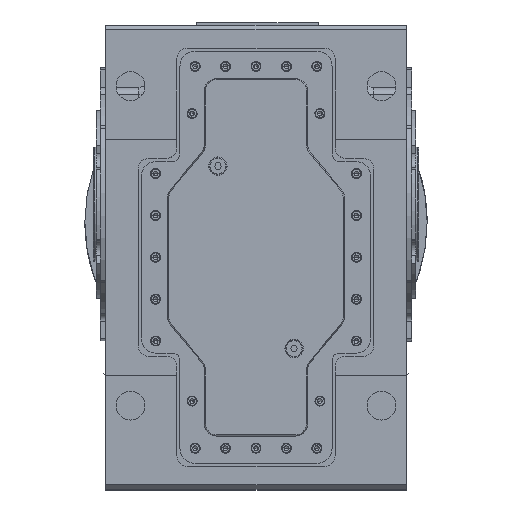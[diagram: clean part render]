
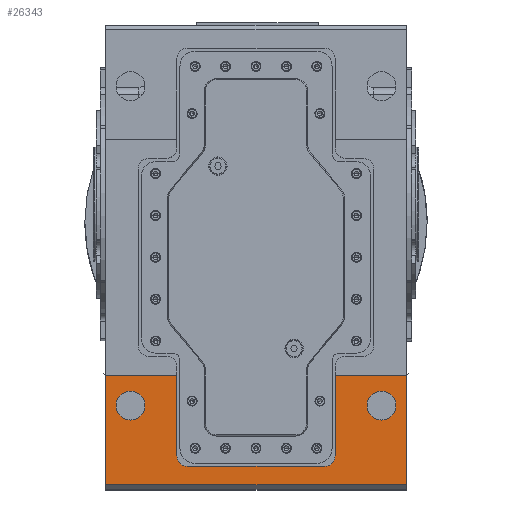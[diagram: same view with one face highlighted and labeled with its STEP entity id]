
A CAD part, top view. The second image highlights one B-rep face of the part: STEP entity #26343.
In plain terms, the highlighted planar face has unit normal (0, 0, 1).
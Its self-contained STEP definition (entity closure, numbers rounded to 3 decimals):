
#9358 = CIRCLE ( 'NONE', #72606, 19. ) ;
#9895 = CIRCLE ( 'NONE', #72667, 19. ) ;
#12580 = CARTESIAN_POINT ( 'NONE',  ( -104., -202.5, 687. ) ) ;
#12616 = CARTESIAN_POINT ( 'NONE',  ( -104., -308.5, 687. ) ) ;
#12620 = CARTESIAN_POINT ( 'NONE',  ( 104., -308.5, 687. ) ) ;
#12658 = CARTESIAN_POINT ( 'NONE',  ( -90., -322.5, 687. ) ) ;
#12751 = CARTESIAN_POINT ( 'NONE',  ( 104., -202.5, 687. ) ) ;
#12781 = CARTESIAN_POINT ( 'NONE',  ( 90., -322.5, 687. ) ) ;
#15340 = CARTESIAN_POINT ( 'NONE',  ( 146., -242.5, 687. ) ) ;
#15366 = CARTESIAN_POINT ( 'NONE',  ( 184., -242.5, 687. ) ) ;
#15993 = CARTESIAN_POINT ( 'NONE',  ( -197.5, -346.5, 687. ) ) ;
#16090 = CARTESIAN_POINT ( 'NONE',  ( 197.5, -346.5, 687. ) ) ;
#16177 = CARTESIAN_POINT ( 'NONE',  ( 197.5, -202.5, 687. ) ) ;
#18777 = VERTEX_POINT ( 'NONE', #12580 ) ;
#18799 = VERTEX_POINT ( 'NONE', #12620 ) ;
#18801 = VERTEX_POINT ( 'NONE', #12658 ) ;
#18827 = VERTEX_POINT ( 'NONE', #12616 ) ;
#18901 = VERTEX_POINT ( 'NONE', #12751 ) ;
#18904 = VERTEX_POINT ( 'NONE', #12781 ) ;
#20660 = FACE_BOUND ( 'NONE', #69038, .T. ) ;
#20670 = FACE_OUTER_BOUND ( 'NONE', #69008, .T. ) ;
#20729 = FACE_BOUND ( 'NONE', #69110, .T. ) ;
#26343 = ADVANCED_FACE ( 'NONE', ( #20670, #20729, #20660 ), #36157, .T. ) ;
#29108 = EDGE_CURVE ( 'NONE', #58003, #58020, #9358, .T. ) ;
#29371 = EDGE_CURVE ( 'NONE', #78285, #78228, #9895, .T. ) ;
#31689 = DIRECTION ( 'NONE',  ( 1., 0., 0. ) ) ;
#31706 = CARTESIAN_POINT ( 'NONE',  ( -200., -346.5, 687. ) ) ;
#31781 = CARTESIAN_POINT ( 'NONE',  ( -197.5, 229.5, 687. ) ) ;
#31785 = DIRECTION ( 'NONE',  ( 0., 1., 0. ) ) ;
#31800 = DIRECTION ( 'NONE',  ( 0., -1., 0. ) ) ;
#31813 = CARTESIAN_POINT ( 'NONE',  ( 197.5, 229.5, 687. ) ) ;
#32754 = DIRECTION ( 'NONE',  ( -1., 0., 0. ) ) ;
#32764 = CARTESIAN_POINT ( 'NONE',  ( -200., -202.5, 687. ) ) ;
#36102 = CARTESIAN_POINT ( 'NONE',  ( -200., -202.5, 687. ) ) ;
#36157 = PLANE ( 'NONE',  #50856 ) ;
#36159 = DIRECTION ( 'NONE',  ( 1., 0., 0. ) ) ;
#36179 = DIRECTION ( 'NONE',  ( 0., 0., 1. ) ) ;
#38957 = VERTEX_POINT ( 'NONE', #118049 ) ;
#46749 = LINE ( 'NONE', #83536, #46763 ) ;
#46750 = CIRCLE ( 'NONE', #48057, 19. ) ;
#46763 = VECTOR ( 'NONE', #83819, 1000. ) ;
#47027 = AXIS2_PLACEMENT_3D ( 'NONE', #89474, #89445, #89435 ) ;
#47193 = AXIS2_PLACEMENT_3D ( 'NONE', #87563, #87543, #87545 ) ;
#47227 = AXIS2_PLACEMENT_3D ( 'NONE', #87854, #87862, #87835 ) ;
#47266 = LINE ( 'NONE', #32764, #47309 ) ;
#47309 = VECTOR ( 'NONE', #32754, 1000. ) ;
#47464 = LINE ( 'NONE', #31706, #47483 ) ;
#47483 = VECTOR ( 'NONE', #31689, 1000. ) ;
#47496 = VECTOR ( 'NONE', #31785, 1000. ) ;
#47498 = LINE ( 'NONE', #31781, #47496 ) ;
#47552 = VECTOR ( 'NONE', #31800, 1000. ) ;
#47574 = LINE ( 'NONE', #31813, #47552 ) ;
#48057 = AXIS2_PLACEMENT_3D ( 'NONE', #83376, #83314, #83318 ) ;
#50316 = LINE ( 'NONE', #87808, #50475 ) ;
#50475 = VECTOR ( 'NONE', #87783, 1000. ) ;
#50483 = LINE ( 'NONE', #87768, #50588 ) ;
#50588 = VECTOR ( 'NONE', #87810, 1000. ) ;
#50856 = AXIS2_PLACEMENT_3D ( 'NONE', #36102, #36179, #36159 ) ;
#51142 = LINE ( 'NONE', #89413, #51174 ) ;
#51174 = VECTOR ( 'NONE', #89366, 1000. ) ;
#51190 = CIRCLE ( 'NONE', #47027, 19. ) ;
#51224 = CIRCLE ( 'NONE', #47193, 14. ) ;
#58003 = VERTEX_POINT ( 'NONE', #15366 ) ;
#58020 = VERTEX_POINT ( 'NONE', #15340 ) ;
#58449 = VERTEX_POINT ( 'NONE', #16090 ) ;
#58473 = VERTEX_POINT ( 'NONE', #15993 ) ;
#58541 = VERTEX_POINT ( 'NONE', #16177 ) ;
#59569 = CARTESIAN_POINT ( 'NONE',  ( -165., -242.5, 687. ) ) ;
#59584 = DIRECTION ( 'NONE',  ( 0., 0., -1. ) ) ;
#59649 = DIRECTION ( 'NONE',  ( 1., 0., 0. ) ) ;
#60830 = DIRECTION ( 'NONE',  ( 1., 0., 0. ) ) ;
#60844 = CARTESIAN_POINT ( 'NONE',  ( 165., -242.5, 687. ) ) ;
#60851 = DIRECTION ( 'NONE',  ( 0., 0., -1. ) ) ;
#69008 = EDGE_LOOP ( 'NONE', ( #70152, #70057, #70083, #70145, #70129, #70127, #70116, #70140, #70179, #70064 ) ) ;
#69038 = EDGE_LOOP ( 'NONE', ( #70088, #70112 ) ) ;
#69110 = EDGE_LOOP ( 'NONE', ( #70094, #70100 ) ) ;
#70057 = ORIENTED_EDGE ( 'NONE', *, *, #94938, .T. ) ;
#70064 = ORIENTED_EDGE ( 'NONE', *, *, #94937, .T. ) ;
#70083 = ORIENTED_EDGE ( 'NONE', *, *, #78478, .T. ) ;
#70088 = ORIENTED_EDGE ( 'NONE', *, *, #29371, .T. ) ;
#70094 = ORIENTED_EDGE ( 'NONE', *, *, #29108, .T. ) ;
#70100 = ORIENTED_EDGE ( 'NONE', *, *, #78389, .T. ) ;
#70112 = ORIENTED_EDGE ( 'NONE', *, *, #94733, .T. ) ;
#70116 = ORIENTED_EDGE ( 'NONE', *, *, #79332, .T. ) ;
#70127 = ORIENTED_EDGE ( 'NONE', *, *, #79598, .F. ) ;
#70129 = ORIENTED_EDGE ( 'NONE', *, *, #79409, .T. ) ;
#70140 = ORIENTED_EDGE ( 'NONE', *, *, #94713, .T. ) ;
#70145 = ORIENTED_EDGE ( 'NONE', *, *, #79562, .F. ) ;
#70152 = ORIENTED_EDGE ( 'NONE', *, *, #94974, .T. ) ;
#70179 = ORIENTED_EDGE ( 'NONE', *, *, #94853, .T. ) ;
#72606 = AXIS2_PLACEMENT_3D ( 'NONE', #60844, #60851, #60830 ) ;
#72667 = AXIS2_PLACEMENT_3D ( 'NONE', #59569, #59584, #59649 ) ;
#78228 = VERTEX_POINT ( 'NONE', #84594 ) ;
#78285 = VERTEX_POINT ( 'NONE', #84697 ) ;
#78389 = EDGE_CURVE ( 'NONE', #58020, #58003, #46750, .T. ) ;
#78478 = EDGE_CURVE ( 'NONE', #18777, #38957, #46749, .T. ) ;
#79332 = EDGE_CURVE ( 'NONE', #58541, #18901, #47266, .T. ) ;
#79409 = EDGE_CURVE ( 'NONE', #58473, #58449, #47464, .T. ) ;
#79562 = EDGE_CURVE ( 'NONE', #58473, #38957, #47498, .T. ) ;
#79598 = EDGE_CURVE ( 'NONE', #58541, #58449, #47574, .T. ) ;
#83314 = DIRECTION ( 'NONE',  ( 0., 0., -1. ) ) ;
#83318 = DIRECTION ( 'NONE',  ( 1., 0., 0. ) ) ;
#83376 = CARTESIAN_POINT ( 'NONE',  ( 165., -242.5, 687. ) ) ;
#83536 = CARTESIAN_POINT ( 'NONE',  ( -200., -202.5, 687. ) ) ;
#83819 = DIRECTION ( 'NONE',  ( -1., 0., 0. ) ) ;
#84594 = CARTESIAN_POINT ( 'NONE',  ( -184., -242.5, 687. ) ) ;
#84697 = CARTESIAN_POINT ( 'NONE',  ( -146., -242.5, 687. ) ) ;
#87543 = DIRECTION ( 'NONE',  ( 0., 0., -1. ) ) ;
#87545 = DIRECTION ( 'NONE',  ( 1., 0., 0. ) ) ;
#87563 = CARTESIAN_POINT ( 'NONE',  ( 90., -308.5, 687. ) ) ;
#87768 = CARTESIAN_POINT ( 'NONE',  ( -104., -202.5, 687. ) ) ;
#87783 = DIRECTION ( 'NONE',  ( -1., 0., 0. ) ) ;
#87808 = CARTESIAN_POINT ( 'NONE',  ( -200., -322.5, 687. ) ) ;
#87810 = DIRECTION ( 'NONE',  ( 0., 1., 0. ) ) ;
#87835 = DIRECTION ( 'NONE',  ( 1., 0., 0. ) ) ;
#87854 = CARTESIAN_POINT ( 'NONE',  ( -90., -308.5, 687. ) ) ;
#87862 = DIRECTION ( 'NONE',  ( 0., 0., -1. ) ) ;
#89366 = DIRECTION ( 'NONE',  ( 0., -1., 0. ) ) ;
#89413 = CARTESIAN_POINT ( 'NONE',  ( 104., -202.5, 687. ) ) ;
#89435 = DIRECTION ( 'NONE',  ( 1., 0., 0. ) ) ;
#89445 = DIRECTION ( 'NONE',  ( 0., 0., -1. ) ) ;
#89474 = CARTESIAN_POINT ( 'NONE',  ( -165., -242.5, 687. ) ) ;
#89573 = CIRCLE ( 'NONE', #47227, 14. ) ;
#94713 = EDGE_CURVE ( 'NONE', #18901, #18799, #51142, .T. ) ;
#94733 = EDGE_CURVE ( 'NONE', #78228, #78285, #51190, .T. ) ;
#94853 = EDGE_CURVE ( 'NONE', #18799, #18904, #51224, .T. ) ;
#94937 = EDGE_CURVE ( 'NONE', #18904, #18801, #50316, .T. ) ;
#94938 = EDGE_CURVE ( 'NONE', #18827, #18777, #50483, .T. ) ;
#94974 = EDGE_CURVE ( 'NONE', #18801, #18827, #89573, .T. ) ;
#118049 = CARTESIAN_POINT ( 'NONE',  ( -197.5, -202.5, 687. ) ) ;
